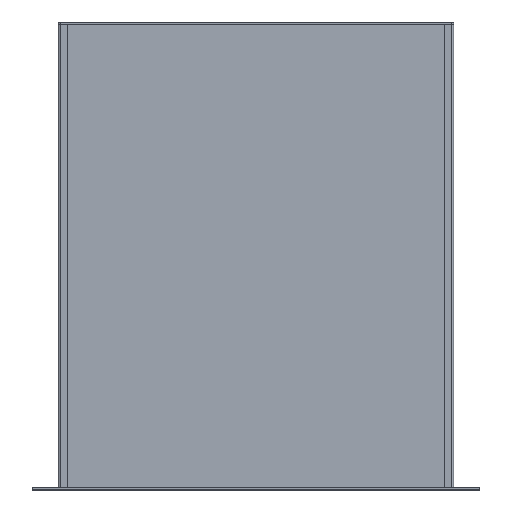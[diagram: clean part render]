
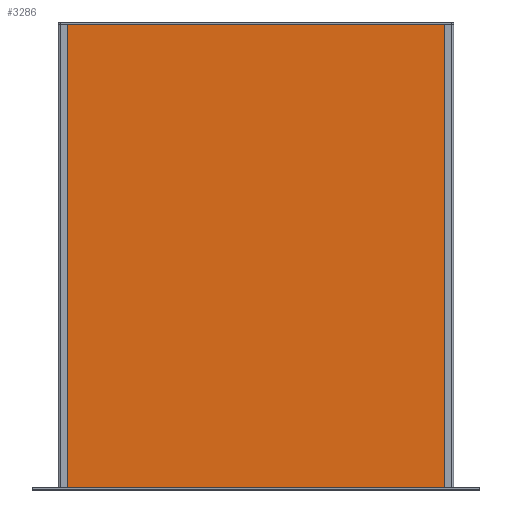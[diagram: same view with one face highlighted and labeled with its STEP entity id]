
A CAD part, top view. The second image highlights one B-rep face of the part: STEP entity #3286.
In plain terms, the highlighted planar face has unit normal (0, 0, 1).
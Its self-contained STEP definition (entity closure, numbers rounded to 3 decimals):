
#230=PLANE('',#3643);
#398=FACE_OUTER_BOUND('',#594,.T.);
#594=EDGE_LOOP('',(#3043,#3044,#3045,#3046));
#910=LINE('',#5476,#1254);
#917=LINE('',#5491,#1261);
#918=LINE('',#5493,#1262);
#919=LINE('',#5494,#1263);
#1254=VECTOR('',#4521,10.);
#1261=VECTOR('',#4534,10.);
#1262=VECTOR('',#4535,10.);
#1263=VECTOR('',#4536,10.);
#1698=VERTEX_POINT('',#5470);
#1700=VERTEX_POINT('',#5474);
#1705=VERTEX_POINT('',#5490);
#1706=VERTEX_POINT('',#5492);
#2150=EDGE_CURVE('',#1698,#1700,#910,.T.);
#2157=EDGE_CURVE('',#1705,#1698,#917,.T.);
#2158=EDGE_CURVE('',#1706,#1700,#918,.T.);
#2159=EDGE_CURVE('',#1705,#1706,#919,.T.);
#3043=ORIENTED_EDGE('',*,*,#2157,.T.);
#3044=ORIENTED_EDGE('',*,*,#2150,.T.);
#3045=ORIENTED_EDGE('',*,*,#2158,.F.);
#3046=ORIENTED_EDGE('',*,*,#2159,.F.);
#3286=ADVANCED_FACE('',(#398),#230,.T.);
#3643=AXIS2_PLACEMENT_3D('',#5489,#4532,#4533);
#4521=DIRECTION('',(0.,1.,0.));
#4532=DIRECTION('center_axis',(0.,0.,1.));
#4533=DIRECTION('ref_axis',(1.,0.,0.));
#4534=DIRECTION('',(1.,0.,0.));
#4535=DIRECTION('',(1.,0.,0.));
#4536=DIRECTION('',(0.,1.,0.));
#5470=CARTESIAN_POINT('',(444.6,0.,-19.3));
#5474=CARTESIAN_POINT('',(444.6,500.,-19.3));
#5476=CARTESIAN_POINT('',(444.6,0.,-19.3));
#5489=CARTESIAN_POINT('Origin',(38.4,0.,-19.3));
#5490=CARTESIAN_POINT('',(38.4,0.,-19.3));
#5491=CARTESIAN_POINT('',(38.4,0.,-19.3));
#5492=CARTESIAN_POINT('',(38.4,500.,-19.3));
#5493=CARTESIAN_POINT('',(38.4,500.,-19.3));
#5494=CARTESIAN_POINT('',(38.4,0.,-19.3));
